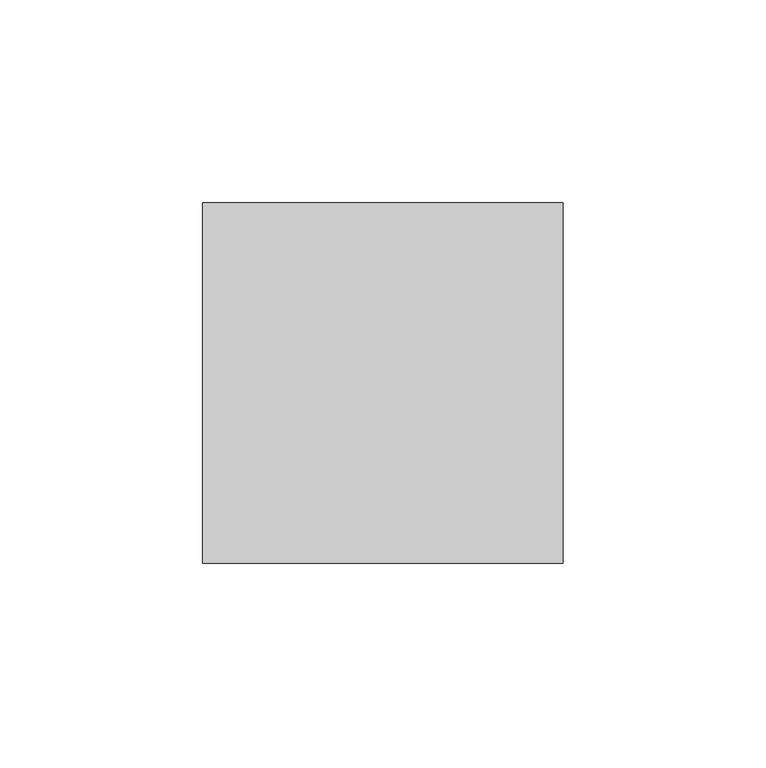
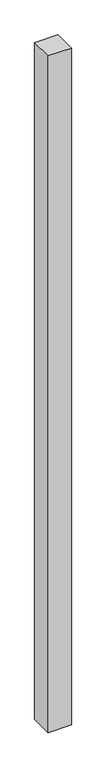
"""IFC4 building model written with IfcOpenShell, lengths in millimetres: column geometry, Trus Joist - TimberStrand LSL - Post Column : TimberStrand® 1.3E – 3 1/2 x 3 1/2”."""

from ifc_helpers import new_model, si_unit, origin, origin_with_axes, place, context, project, spatial, polyline, outline, extrude, source, transform, mapped, element, save


def column_24c5454e(model_context):
    return source(origin(), model_context, "Body", "SweptSolid", [
        extrude(outline(polyline([(44.45, 44.45), (44.45, -44.45), (-44.45, -44.45), (-44.45, 44.45), (44.45, 44.45)])), origin_with_axes(), (0.0, 0.0, 1.0), 2740.025),
    ])


if __name__ == "__main__":
    model = new_model("IFC4")
    model_context = context("Model", 3, world=origin())
    ifc_project = project(units=[si_unit("LENGTHUNIT", "METRE", prefix="MILLI")], contexts=[model_context])
    site = spatial("IfcSite", under=ifc_project)
    building = spatial("IfcBuilding", under=site)
    placement = place(None, origin())
    column_shape = column_24c5454e(model_context)
    element("IfcColumn", 1, ObjectType="Trus Joist - TimberStrand LSL - Post Column : TimberStrand® 1.3E – 3 1/2 x 3 1/2”", at=placement, inside=building, context=model_context, shape_type="MappedRepresentation", body=[
        mapped(column_shape, transform((0.0, 0.0, 0.0), x_axis=(1.0, 0.0, 0.0), y_axis=(0.0, 1.0, 0.0), z_axis=(0.0, 0.0, 1.0))),
    ])
    save(model, "model.ifc")
